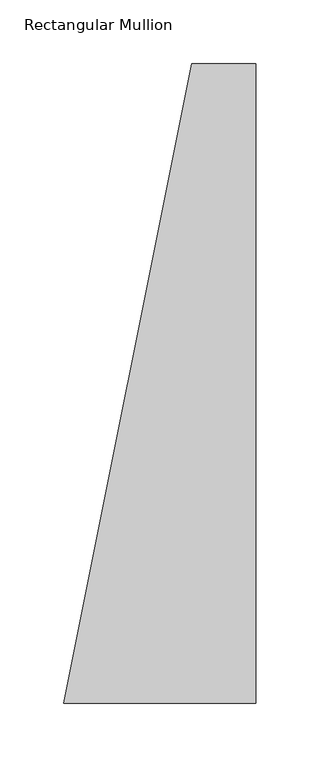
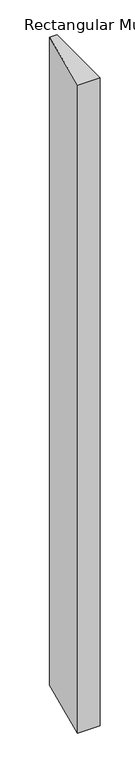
"""IFC4 building model written with IfcOpenShell, lengths in millimetres: member geometry, Rectangular Mullion : 500(350+150)x150x50mm."""

from ifc_helpers import new_model, si_unit, frame, origin, place, context, project, spatial, polyline, outline, extrude, source, transform, mapped, element, save


def rectangular_mullion_6aad4048(model_context):
    return source(origin(), model_context, "Body", "SweptSolid", [
        extrude(outline(polyline([(75.0, 150.0), (75.0, -350.0), (-75.0, -350.0), (25.0, 150.0), (75.0, 150.0)])), frame((0.0, 0.0, -4600.0), z_axis=(0.0, 0.0, 1.0), x_axis=(1.0, 0.0, 0.0)), (0.0, 0.0, 1.0), 4600.0),
    ])


if __name__ == "__main__":
    model = new_model("IFC4")
    model_context = context("Model", 3, world=origin())
    ifc_project = project(units=[si_unit("LENGTHUNIT", "METRE", prefix="MILLI")], contexts=[model_context])
    site = spatial("IfcSite", under=ifc_project)
    building = spatial("IfcBuilding", under=site)
    placement = place(None, origin())
    rectangular_mullion_shape = rectangular_mullion_6aad4048(model_context)
    element("IfcMember", 1, ObjectType="Rectangular Mullion : 500(350+150)x150x50mm", at=placement, inside=building, context=model_context, shape_type="MappedRepresentation", body=[
        mapped(rectangular_mullion_shape, transform((0.0, 0.0, 0.0), x_axis=(1.0, 0.0, 0.0), y_axis=(0.0, 1.0, 0.0), z_axis=(0.0, 0.0, 1.0))),
    ])
    save(model, "model.ifc")
